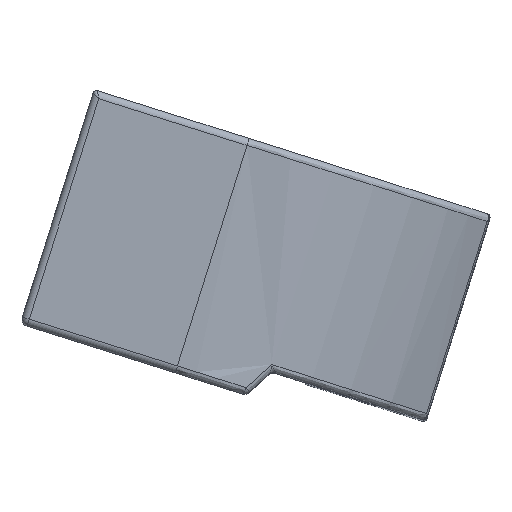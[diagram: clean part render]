
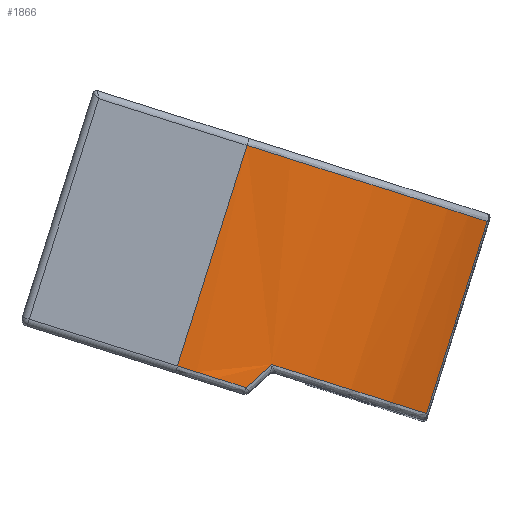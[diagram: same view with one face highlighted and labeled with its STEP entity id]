
A CAD part, top view. The second image highlights one B-rep face of the part: STEP entity #1866.
In plain terms, the highlighted free-form (B-spline) face has degree [3, 1] with [15, 2] control points.
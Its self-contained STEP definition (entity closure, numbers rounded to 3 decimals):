
#26=(
BOUNDED_SURFACE()
B_SPLINE_SURFACE(3,1,((#3465,#3466),(#3467,#3468),(#3469,#3470),(#3471,
#3472),(#3473,#3474),(#3475,#3476),(#3477,#3478),(#3479,#3480),(#3481,#3482),
(#3483,#3484),(#3485,#3486),(#3487,#3488),(#3489,#3490),(#3491,#3492),(#3493,
#3494)),.UNSPECIFIED.,.F.,.F.,.F.)
B_SPLINE_SURFACE_WITH_KNOTS((4,2,2,2,3,2,4),(2,2),(-1.571,-1.456,
-1.342,-1.228,-1.113,-0.885,
-0.656),(0.,0.848),.UNSPECIFIED.)
GEOMETRIC_REPRESENTATION_ITEM()
RATIONAL_B_SPLINE_SURFACE(((1.,1.),(1.,1.),(1.,1.),(1.,1.),(1.,1.),(1.,
1.),(1.,1.),(1.,1.),(1.,1.),(1.,1.),(1.,1.),(1.,1.),(1.,1.),(1.,1.),(1.,
1.)))
REPRESENTATION_ITEM('')
SURFACE()
);
#126=LINE('',#3464,#260);
#260=VECTOR('',#2343,10.);
#429=FACE_OUTER_BOUND('',#552,.T.);
#552=EDGE_LOOP('',(#1403,#1404,#1405,#1406,#1407,#1408));
#651=B_SPLINE_CURVE_WITH_KNOTS('',3,(#2893,#2894,#2895,#2896,#2897,#2898),
 .UNSPECIFIED.,.F.,.F.,(4,2,4),(-0.148,-0.039,-0.029),
 .UNSPECIFIED.);
#653=B_SPLINE_CURVE_WITH_KNOTS('',3,(#2976,#2977,#2978,#2979,#2980,#2981),
 .UNSPECIFIED.,.F.,.F.,(4,2,4),(-0.243,-0.124,0.),
 .UNSPECIFIED.);
#663=B_SPLINE_CURVE_WITH_KNOTS('',3,(#3224,#3225,#3226,#3227,#3228,#3229,
#3230,#3231,#3232,#3233),.UNSPECIFIED.,.F.,.F.,(4,2,2,2,4),(-0.968,
-0.747,-0.498,-0.374,-0.305),
 .UNSPECIFIED.);
#665=B_SPLINE_CURVE_WITH_KNOTS('',3,(#3328,#3329,#3330,#3331,#3332,#3333,
#3334,#3335,#3336,#3337,#3338,#3339,#3340,#3341),.UNSPECIFIED.,.F.,.F.,
(4,2,2,2,2,2,4),(-0.975,-0.851,-0.727,
-0.603,-0.478,-0.23,-0.009),
 .UNSPECIFIED.);
#667=B_SPLINE_CURVE_WITH_KNOTS('',3,(#3362,#3363,#3364,#3365),
 .UNSPECIFIED.,.F.,.F.,(4,4),(0.025,0.72),
 .UNSPECIFIED.);
#795=VERTEX_POINT('',#2801);
#802=VERTEX_POINT('',#2892);
#816=VERTEX_POINT('',#2975);
#821=VERTEX_POINT('',#3048);
#826=VERTEX_POINT('',#3126);
#829=VERTEX_POINT('',#3239);
#972=EDGE_CURVE('',#795,#802,#651,.T.);
#994=EDGE_CURVE('',#802,#816,#653,.T.);
#1012=EDGE_CURVE('',#821,#795,#663,.T.);
#1019=EDGE_CURVE('',#829,#826,#665,.T.);
#1021=EDGE_CURVE('',#826,#821,#667,.T.);
#1060=EDGE_CURVE('',#829,#816,#126,.T.);
#1403=ORIENTED_EDGE('',*,*,#1019,.F.);
#1404=ORIENTED_EDGE('',*,*,#1060,.T.);
#1405=ORIENTED_EDGE('',*,*,#994,.F.);
#1406=ORIENTED_EDGE('',*,*,#972,.F.);
#1407=ORIENTED_EDGE('',*,*,#1012,.F.);
#1408=ORIENTED_EDGE('',*,*,#1021,.F.);
#1866=ADVANCED_FACE('',(#429),#26,.F.);
#2343=DIRECTION('',(-0.301,-0.954,0.));
#2801=CARTESIAN_POINT('',(55.199,-39.499,13.82));
#2892=CARTESIAN_POINT('',(54.313,-40.295,13.976));
#2893=CARTESIAN_POINT('Ctrl Pts',(55.199,-39.499,13.82));
#2894=CARTESIAN_POINT('Ctrl Pts',(54.929,-39.741,13.873));
#2895=CARTESIAN_POINT('Ctrl Pts',(54.659,-39.984,13.921));
#2896=CARTESIAN_POINT('Ctrl Pts',(54.364,-40.249,13.968));
#2897=CARTESIAN_POINT('Ctrl Pts',(54.338,-40.272,13.972));
#2898=CARTESIAN_POINT('Ctrl Pts',(54.313,-40.295,13.976));
#2975=CARTESIAN_POINT('',(51.944,-39.548,14.255));
#2976=CARTESIAN_POINT('Ctrl Pts',(54.313,-40.295,13.976));
#2977=CARTESIAN_POINT('Ctrl Pts',(53.933,-40.175,14.066));
#2978=CARTESIAN_POINT('Ctrl Pts',(53.548,-40.053,14.135));
#2979=CARTESIAN_POINT('Ctrl Pts',(52.756,-39.803,14.231));
#2980=CARTESIAN_POINT('Ctrl Pts',(52.349,-39.675,14.255));
#2981=CARTESIAN_POINT('Ctrl Pts',(51.944,-39.548,14.255));
#3048=CARTESIAN_POINT('',(60.535,-41.182,10.121));
#3126=CARTESIAN_POINT('',(62.625,-34.553,10.121));
#3224=CARTESIAN_POINT('Ctrl Pts',(60.535,-41.182,10.121));
#3225=CARTESIAN_POINT('Ctrl Pts',(60.082,-41.039,10.705));
#3226=CARTESIAN_POINT('Ctrl Pts',(59.57,-40.877,11.245));
#3227=CARTESIAN_POINT('Ctrl Pts',(58.381,-40.502,12.265));
#3228=CARTESIAN_POINT('Ctrl Pts',(57.697,-40.287,12.727));
#3229=CARTESIAN_POINT('Ctrl Pts',(56.599,-39.941,13.293));
#3230=CARTESIAN_POINT('Ctrl Pts',(56.224,-39.822,13.46));
#3231=CARTESIAN_POINT('Ctrl Pts',(55.629,-39.635,13.683));
#3232=CARTESIAN_POINT('Ctrl Pts',(55.415,-39.567,13.755));
#3233=CARTESIAN_POINT('Ctrl Pts',(55.199,-39.499,13.82));
#3239=CARTESIAN_POINT('',(54.342,-31.942,14.255));
#3328=CARTESIAN_POINT('Ctrl Pts',(54.342,-31.942,14.255));
#3329=CARTESIAN_POINT('Ctrl Pts',(54.747,-32.069,14.255));
#3330=CARTESIAN_POINT('Ctrl Pts',(55.154,-32.198,14.231));
#3331=CARTESIAN_POINT('Ctrl Pts',(55.963,-32.453,14.133));
#3332=CARTESIAN_POINT('Ctrl Pts',(56.364,-32.579,14.06));
#3333=CARTESIAN_POINT('Ctrl Pts',(57.158,-32.829,13.867));
#3334=CARTESIAN_POINT('Ctrl Pts',(57.549,-32.953,13.746));
#3335=CARTESIAN_POINT('Ctrl Pts',(58.314,-33.194,13.46));
#3336=CARTESIAN_POINT('Ctrl Pts',(58.688,-33.312,13.294));
#3337=CARTESIAN_POINT('Ctrl Pts',(59.782,-33.657,12.73));
#3338=CARTESIAN_POINT('Ctrl Pts',(60.473,-33.875,12.263));
#3339=CARTESIAN_POINT('Ctrl Pts',(61.662,-34.25,11.243));
#3340=CARTESIAN_POINT('Ctrl Pts',(62.171,-34.41,10.706));
#3341=CARTESIAN_POINT('Ctrl Pts',(62.625,-34.553,10.121));
#3362=CARTESIAN_POINT('Ctrl Pts',(62.625,-34.553,10.121));
#3363=CARTESIAN_POINT('Ctrl Pts',(61.928,-36.763,10.121));
#3364=CARTESIAN_POINT('Ctrl Pts',(61.232,-38.972,10.121));
#3365=CARTESIAN_POINT('Ctrl Pts',(60.535,-41.182,10.121));
#3464=CARTESIAN_POINT('',(54.417,-31.703,14.255));
#3465=CARTESIAN_POINT('Ctrl Pts',(54.417,-31.703,14.255));
#3466=CARTESIAN_POINT('Ctrl Pts',(51.869,-39.786,14.255));
#3467=CARTESIAN_POINT('Ctrl Pts',(54.824,-31.831,14.255));
#3468=CARTESIAN_POINT('Ctrl Pts',(52.275,-39.914,14.255));
#3469=CARTESIAN_POINT('Ctrl Pts',(55.23,-31.96,14.23));
#3470=CARTESIAN_POINT('Ctrl Pts',(52.682,-40.042,14.23));
#3471=CARTESIAN_POINT('Ctrl Pts',(56.038,-32.214,14.133));
#3472=CARTESIAN_POINT('Ctrl Pts',(53.49,-40.297,14.133));
#3473=CARTESIAN_POINT('Ctrl Pts',(56.44,-32.341,14.06));
#3474=CARTESIAN_POINT('Ctrl Pts',(53.891,-40.424,14.06));
#3475=CARTESIAN_POINT('Ctrl Pts',(57.232,-32.591,13.867));
#3476=CARTESIAN_POINT('Ctrl Pts',(54.683,-40.673,13.867));
#3477=CARTESIAN_POINT('Ctrl Pts',(57.623,-32.714,13.747));
#3478=CARTESIAN_POINT('Ctrl Pts',(55.074,-40.797,13.747));
#3479=CARTESIAN_POINT('Ctrl Pts',(58.389,-32.955,13.46));
#3480=CARTESIAN_POINT('Ctrl Pts',(55.84,-41.038,13.46));
#3481=CARTESIAN_POINT('Ctrl Pts',(58.764,-33.074,13.293));
#3482=CARTESIAN_POINT('Ctrl Pts',(56.216,-41.157,13.293));
#3483=CARTESIAN_POINT('Ctrl Pts',(59.129,-33.189,13.105));
#3484=CARTESIAN_POINT('Ctrl Pts',(56.58,-41.272,13.105));
#3485=CARTESIAN_POINT('Ctrl Pts',(59.859,-33.419,12.729));
#3486=CARTESIAN_POINT('Ctrl Pts',(57.31,-41.502,12.729));
#3487=CARTESIAN_POINT('Ctrl Pts',(60.547,-33.636,12.264));
#3488=CARTESIAN_POINT('Ctrl Pts',(57.999,-41.719,12.264));
#3489=CARTESIAN_POINT('Ctrl Pts',(61.806,-34.033,11.184));
#3490=CARTESIAN_POINT('Ctrl Pts',(59.258,-42.116,11.184));
#3491=CARTESIAN_POINT('Ctrl Pts',(62.377,-34.213,10.568));
#3492=CARTESIAN_POINT('Ctrl Pts',(59.828,-42.296,10.568));
#3493=CARTESIAN_POINT('Ctrl Pts',(62.873,-34.369,9.892));
#3494=CARTESIAN_POINT('Ctrl Pts',(60.324,-42.452,9.892));
